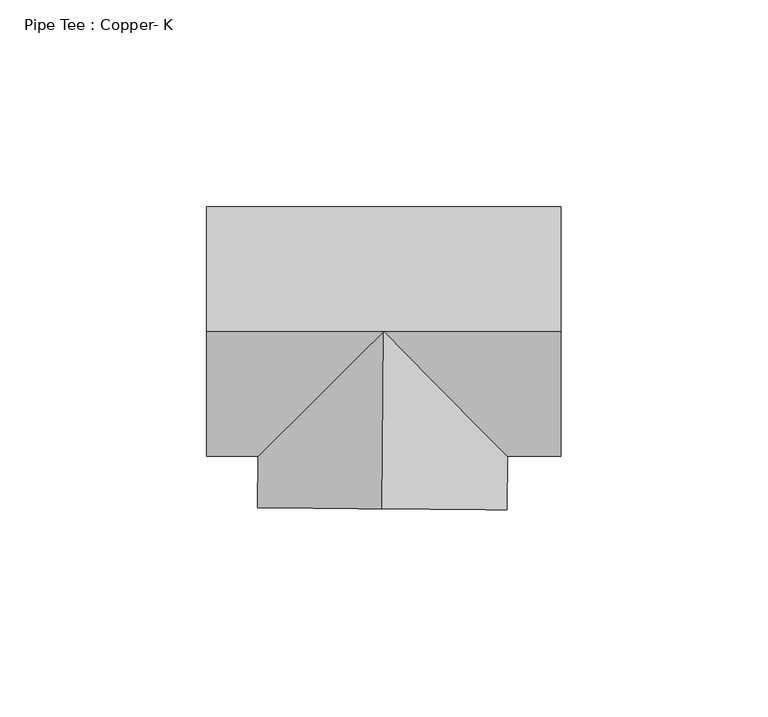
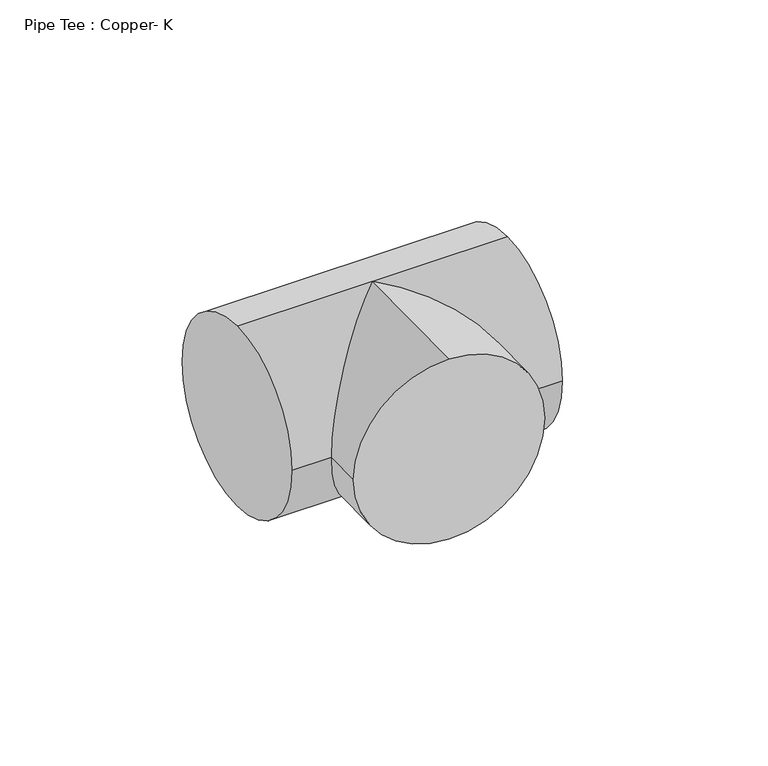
"""IFC4 building model written with IfcOpenShell, lengths in millimetres: pipe fitting geometry, Pipe Tee : Copper- K."""

import ifcopenshell
import ifcopenshell.guid

model = None  # the IFC model being written
_history = None  # IfcOwnerHistory: only IFC2X3 demands one
_inside = {}  # id of a spatial element -> (the spatial element, [elements in it])
_under = {}  # id of a project, library or spatial element -> (it, [spatial elements below it])
_declared = {}  # id of a project -> (the project, [libraries it declares])
_typed = {}  # id of a type object -> (the type object, [elements of that type])
_made_of = {}  # id of a material, layer set ... -> (it, [elements and type objects made of it])


def new_model(schema):
    """Start an empty IFC model of exactly this schema.

    Asked for "IFC4X3", IfcOpenShell would pick the latest addendum, in which some entities
    have other attributes; the version numbers below select the first issue.
    IFC2X3 requires an IfcOwnerHistory on every rooted entity: one is made here for all.
    """
    global model, _history
    if schema == "IFC4X3":
        model = ifcopenshell.file(schema_version=(4, 3, 0, 0))
    else:
        model = ifcopenshell.file(schema=schema)
    _inside.clear()
    _under.clear()
    _declared.clear()
    _typed.clear()
    _made_of.clear()
    _history = None
    if model.schema == "IFC2X3":
        org = make("IfcOrganization", Name="unknown")
        user = make(
            "IfcPersonAndOrganization",
            ThePerson=make("IfcPerson", FamilyName="unknown"),
            TheOrganization=org,
        )
        app = make(
            "IfcApplication",
            ApplicationDeveloper=org,
            Version="unknown",
            ApplicationFullName="unknown",
            ApplicationIdentifier="unknown",
        )
        _history = make(
            "IfcOwnerHistory",
            OwningUser=user,
            OwningApplication=app,
            ChangeAction="ADDED",
            CreationDate=0,
        )
    return model


def make(cls, **values):
    """One entity of the class cls with the attributes given. An attribute that is None is left unset."""
    return model.create_entity(
        cls, **{name: value for name, value in values.items() if value is not None}
    )


def rooted(cls, **values):
    """An entity with a GlobalId (a new one), such as an element, a storey or a relation."""
    return make(cls, GlobalId=ifcopenshell.guid.new(), OwnerHistory=_history, **values)


def si_unit(unit_type, name, prefix=None):
    """IfcSIUnit, for example si_unit("LENGTHUNIT", "METRE", prefix="MILLI")."""
    return make("IfcSIUnit", UnitType=unit_type, Prefix=prefix, Name=name)


def assignment(units):
    """IfcUnitAssignment: the units of a project."""
    return None if units is None else make("IfcUnitAssignment", Units=units)


def point(xyz):
    """IfcCartesianPoint."""
    return None if xyz is None else make("IfcCartesianPoint", Coordinates=xyz)


def direction(xyz):
    """IfcDirection."""
    return None if xyz is None else make("IfcDirection", DirectionRatios=xyz)


def frame(location, z_axis=None, x_axis=None):
    """IfcAxis2Placement3D, a coordinate frame: its origin and axes. An axis left out is left unset."""
    return make(
        "IfcAxis2Placement3D",
        Location=point(location),
        Axis=direction(z_axis),
        RefDirection=direction(x_axis),
    )


def origin():
    """The frame at (0, 0, 0) with its axes left unset."""
    return frame((0.0, 0.0, 0.0))


def place(relative_to, where):
    """IfcLocalPlacement: puts the frame where relative to a parent placement (None: the world)."""
    return make(
        "IfcLocalPlacement", PlacementRelTo=relative_to, RelativePlacement=where
    )


def context(
    kind, dimensions, precision=None, world=None, true_north=None, identifier=None
):
    """IfcGeometricRepresentationContext, for example the 3D "Model" context."""
    return make(
        "IfcGeometricRepresentationContext",
        ContextIdentifier=identifier,
        ContextType=kind,
        CoordinateSpaceDimension=dimensions,
        Precision=precision,
        WorldCoordinateSystem=world,
        TrueNorth=true_north,
    )


def project(units=None, contexts=None):
    """IfcProject with its units and contexts."""
    return rooted(
        "IfcProject",
        Name="project",
        RepresentationContexts=contexts,
        UnitsInContext=assignment(units),
    )


def spatial(cls, under=None, at=None, **own):
    """A site, building, storey or space (cls), placed at a placement, below another one or the project."""
    s = rooted(cls, ObjectPlacement=at, **own)
    if under is not None:
        _under.setdefault(under.id(), (under, []))[1].append(s)
    return s


def circle_curve(where, radius):
    """IfcCircle in the frame where."""
    return make("IfcCircle", Position=where, Radius=radius)


def ellipse_curve(where, semi_axis1, semi_axis2):
    """IfcEllipse in the frame where."""
    return make(
        "IfcEllipse", Position=where, SemiAxis1=semi_axis1, SemiAxis2=semi_axis2
    )


def shape(context_of_items, identifier, shape_type, items):
    """IfcShapeRepresentation: the items that make up one representation, for example the "Body"."""
    return make(
        "IfcShapeRepresentation",
        ContextOfItems=context_of_items,
        RepresentationIdentifier=identifier,
        RepresentationType=shape_type,
        Items=items,
    )


def source(mapping_origin, context_of_items, identifier, shape_type, items):
    """IfcRepresentationMap: a shape defined once, which mapped items show again and again."""
    return make(
        "IfcRepresentationMap",
        MappingOrigin=mapping_origin,
        MappedRepresentation=shape(context_of_items, identifier, shape_type, items),
    )


def transform(
    local_origin,
    x_axis=None,
    y_axis=None,
    z_axis=None,
    scale=None,
    scale2=None,
    scale3=None,
    uniform=True,
):
    """IfcCartesianTransformationOperator3D, or its non-uniform kind. x_axis, y_axis, z_axis: its Axis1, 2, 3."""
    if uniform:
        return make(
            "IfcCartesianTransformationOperator3D",
            Axis1=direction(x_axis),
            Axis2=direction(y_axis),
            LocalOrigin=point(local_origin),
            Scale=scale,
            Axis3=direction(z_axis),
        )
    return make(
        "IfcCartesianTransformationOperator3DnonUniform",
        Axis1=direction(x_axis),
        Axis2=direction(y_axis),
        LocalOrigin=point(local_origin),
        Scale=scale,
        Axis3=direction(z_axis),
        Scale2=scale2,
        Scale3=scale3,
    )


def mapped(mapping_source, mapping_target):
    """IfcMappedItem: shows the shape of a source again, moved by a transform."""
    return make(
        "IfcMappedItem", MappingSource=mapping_source, MappingTarget=mapping_target
    )


def made_of(thing, what):
    """Note that an element or type object is made of a material, layer set ...; save() writes the relation."""
    if what is not None:
        _made_of.setdefault(what.id(), (what, []))[1].append(thing)
    return thing


def element(
    cls,
    number,
    at=None,
    inside=None,
    cuts=None,
    type_object=None,
    material=None,
    context=None,
    identifier="Body",
    shape_type=None,
    held_by="IfcProductDefinitionShape",
    body=None,
    shapes=None,
    **own,
):
    """One element of the class cls, such as IfcWall. Its Tag is "e" and its number.

    at: its placement. inside: the storey or other place that contains it. cuts: it is an
    opening in that element (IfcRelVoidsElement). A single representation is given by context,
    identifier, shape_type and body (its items); several are given by shapes. held_by: the class
    of the entity that holds the representations. save() writes the other relations.
    """
    e = rooted(cls, Tag="e%d" % number, ObjectPlacement=at, **own)
    if body is not None:
        shapes = [shape(context, identifier, shape_type, body)]
    if shapes is not None:
        e.Representation = make(held_by, Representations=shapes)
    if inside is not None:
        _inside.setdefault(inside.id(), (inside, []))[1].append(e)
    if cuts is not None:
        rooted(
            "IfcRelVoidsElement", RelatingBuildingElement=cuts, RelatedOpeningElement=e
        )
    if type_object is not None:
        _typed.setdefault(type_object.id(), (type_object, []))[1].append(e)
    return made_of(e, material)


def aggregate(whole, parts):
    """IfcRelAggregates: a whole, such as a stair, and the parts it consists of."""
    return rooted("IfcRelAggregates", RelatingObject=whole, RelatedObjects=parts)


def save(model, path):
    """Write the relations noted so far, then the file.

    IfcRelAggregates (storeys below a building ...), IfcRelContainedInSpatialStructure (elements
    in a storey), IfcRelDefinesByType, IfcRelAssociatesMaterial and IfcRelDeclares: one each for
    every whole, place, type object, material and project.
    """
    for whole, parts in _under.values():
        aggregate(whole, parts)
    for where, things in _inside.values():
        rooted(
            "IfcRelContainedInSpatialStructure",
            RelatedElements=things,
            RelatingStructure=where,
        )
    for kind, things in _typed.values():
        rooted("IfcRelDefinesByType", RelatedObjects=things, RelatingType=kind)
    for what, things in _made_of.values():
        rooted("IfcRelAssociatesMaterial", RelatedObjects=things, RelatingMaterial=what)
    for by, libraries in _declared.values():
        rooted("IfcRelDeclares", RelatingContext=by, RelatedDefinitions=libraries)
    model.write(path)


def plane_surface(at):
    """IfcPlane: the flat surface through the origin of the frame at, square to its z axis."""
    return make("IfcPlane", Position=at)


def cylinder_surface(at, radius):
    """IfcCylindricalSurface: all points at the distance radius from the z axis of the frame at."""
    return make("IfcCylindricalSurface", Position=at, Radius=radius)


def advanced_brep(points, edges, surfaces, faces):
    """IfcAdvancedBrep: a solid bounded by faces that lie on surfaces and meet in shared edges.

    An edge is (start, end): straight between two places in points (the first is 0);
    or (start, end, curve); or (start, end, curve, False) where it runs against its curve.
    A face is (place in surfaces, loops), or (place, loops, False) where it looks against
    its surface's normal. A loop lists edges by number (the first is 1), with a minus sign
    where the edge is run from its end to its start. The first loop is the outer one.
    """
    corners = [point(p) for p in points]
    vertices = [make("IfcVertexPoint", VertexGeometry=c) for c in corners]
    made = []
    for start, end, *more in edges:
        made.append(
            make(
                "IfcEdgeCurve",
                EdgeStart=vertices[start],
                EdgeEnd=vertices[end],
                EdgeGeometry=more[0] if more else make("IfcPolyline", Points=[corners[start], corners[end]]),
                SameSense=more[1] if len(more) > 1 else True,
            )
        )
    hull = []
    for where, loops, *sense in faces:
        bounds = []
        for j, loop in enumerate(loops):
            ring = [make("IfcOrientedEdge", EdgeElement=made[abs(k) - 1], Orientation=k > 0) for k in loop]
            bounds.append(
                make(
                    "IfcFaceOuterBound" if j == 0 else "IfcFaceBound",
                    Bound=make("IfcEdgeLoop", EdgeList=ring),
                    Orientation=True,
                )
            )
        hull.append(make("IfcAdvancedFace", Bounds=bounds, FaceSurface=surfaces[where], SameSense=sense[0] if sense else True))
    return make("IfcAdvancedBrep", Outer=make("IfcClosedShell", CfsFaces=hull))


def pipe_tee_copper_k_96819ad6(model_context):
    return source(origin(), model_context, "Body", "AdvancedBrep", [
        advanced_brep(
        [(-42.8625, 0.0, 30.1625), (-42.8625, 30.1625, 0.0), (-42.8625, 0.0, -30.1625), (-42.8625, -30.1625, 0.0), (42.8625, 0.0, 30.1625), (42.8625, -30.1625, 0.0), (42.8625, 0.0, -30.1625), (42.8625, 30.1625, 0.0), (0.0, 0.0, 30.1625), (0.0, 0.0, -30.1625), (-30.4242687, -30.1625, 0.0), (29.9029836, -30.1625, 0.0), (-0.370373, -42.8608998, 30.1625), (-30.5317469, -42.6002669, 0.0), (-0.370373, -42.8608998, -30.1625), (29.7910009, -43.1215326, 0.0)],
        [
            (0, 1, circle_curve(frame((-42.8625, 0.0, 0.0), z_axis=(-1.0, 0.0, 0.0), x_axis=(0.0, 1.0, 0.0)), 30.1625)),
            (1, 2, circle_curve(frame((-42.8625, 0.0, 0.0), z_axis=(-1.0, 0.0, 0.0), x_axis=(0.0, 1.0, 0.0)), 30.1625)),
            (2, 3, circle_curve(frame((-42.8625, 0.0, 0.0), z_axis=(-1.0, 0.0, 0.0), x_axis=(0.0, 1.0, 0.0)), 30.1625)),
            (3, 0, circle_curve(frame((-42.8625, 0.0, 0.0), z_axis=(-1.0, 0.0, 0.0), x_axis=(0.0, 1.0, 0.0)), 30.1625)),
            (4, 5, circle_curve(frame((42.8625, 0.0, 0.0), z_axis=(1.0, 0.0, 0.0), x_axis=(0.0, 1.0, 0.0)), 30.1625)),
            (5, 6, circle_curve(frame((42.8625, 0.0, 0.0), z_axis=(1.0, 0.0, 0.0), x_axis=(0.0, 1.0, 0.0)), 30.1625)),
            (6, 7, circle_curve(frame((42.8625, 0.0, 0.0), z_axis=(1.0, 0.0, 0.0), x_axis=(0.0, 1.0, 0.0)), 30.1625)),
            (7, 4, circle_curve(frame((42.8625, 0.0, 0.0), z_axis=(1.0, 0.0, 0.0), x_axis=(0.0, 1.0, 0.0)), 30.1625)),
            (0, 8),
            (8, 4),
            (7, 1),
            (6, 9),
            (9, 2),
            (9, 10, ellipse_curve(frame((0.0, 0.0, 0.0), z_axis=(-0.7040451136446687, 0.7101552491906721, 0.0), x_axis=(-0.7101552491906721, -0.7040451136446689, 0.0)), 42.8417148, 30.1625)),
            (10, 3),
            (5, 11),
            (11, 9, ellipse_curve(frame((0.0, 0.0, 0.0), z_axis=(0.7101552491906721, 0.7040451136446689, 0.0), x_axis=(-0.7040451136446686, 0.7101552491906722, 0.0)), 42.4731072, 30.1625)),
            (10, 8, ellipse_curve(frame((0.0, 0.0, 0.0), z_axis=(-0.7040451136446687, 0.7101552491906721, 0.0), x_axis=(-0.7101552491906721, -0.7040451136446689, 0.0)), 42.8417148, 30.1625)),
            (8, 11, ellipse_curve(frame((0.0, 0.0, 0.0), z_axis=(0.7101552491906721, 0.7040451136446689, 0.0), x_axis=(-0.7040451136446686, 0.7101552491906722, 0.0)), 42.4731072, 30.1625)),
            (12, 13, circle_curve(frame((-0.370373, -42.8608998, 0.0), z_axis=(-0.008640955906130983, -0.9999626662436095, 0.0), x_axis=(0.9999626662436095, -0.008640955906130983, 0.0)), 30.1625)),
            (13, 14, circle_curve(frame((-0.370373, -42.8608998, 0.0), z_axis=(-0.008640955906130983, -0.9999626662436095, 0.0), x_axis=(0.9999626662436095, -0.008640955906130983, 0.0)), 30.1625)),
            (14, 15, circle_curve(frame((-0.370373, -42.8608998, 0.0), z_axis=(-0.008640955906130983, -0.9999626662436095, 0.0), x_axis=(0.9999626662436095, -0.008640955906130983, 0.0)), 30.1625)),
            (15, 12, circle_curve(frame((-0.370373, -42.8608998, 0.0), z_axis=(-0.008640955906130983, -0.9999626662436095, 0.0), x_axis=(0.9999626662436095, -0.008640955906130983, 0.0)), 30.1625)),
            (15, 11),
            (8, 12),
            (14, 9),
            (13, 10),
        ],
        [
            plane_surface(frame((-42.8625, 0.0, 0.0), z_axis=(-1.0, 0.0, 0.0), x_axis=(0.0, 0.0, 1.0))),
            plane_surface(frame((42.8625, 0.0, 0.0), z_axis=(1.0, 0.0, 0.0), x_axis=(0.0, 0.0, 1.0))),
            cylinder_surface(frame((-42.8625, 0.0, 0.0), z_axis=(-1.0, 0.0, 0.0), x_axis=(0.0, 1.0, 0.0)), 30.1625),
            plane_surface(frame((-0.370373, -42.8608998, 0.0), z_axis=(-0.008640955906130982, -0.9999626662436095, 0.0), x_axis=(0.0, 0.0, 1.0))),
            cylinder_surface(frame((0.0, 0.0, 0.0), z_axis=(0.008640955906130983, 0.9999626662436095, 0.0), x_axis=(0.9999626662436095, -0.008640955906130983, 0.0)), 30.1625),
        ],
        [
            (0, [[1, 2, 3, 4]]),
            (1, [[5, 6, 7, 8]]),
            (2, [[-1, 9, 10, -8, 11]]),
            (2, [[-2, -11, -7, 12, 13]]),
            (2, [[-3, -13, 14, 15]]),
            (2, [[-6, 16, 17, -12]]),
            (2, [[-4, -15, 18, -9]]),
            (2, [[-5, -10, 19, -16]]),
            (3, [[20, 21, 22, 23]]),
            (4, [[-23, 24, -19, 25]]),
            (4, [[-22, 26, -17, -24]]),
            (4, [[-21, 27, -14, -26]]),
            (4, [[-20, -25, -18, -27]]),
        ],
    ),
        advanced_brep(
        [(-42.8625, 0.0, 30.1625), (-42.8625, 30.1625, 0.0), (-42.8625, 0.0, -30.1625), (-42.8625, -30.1625, 0.0), (42.8625, 0.0, 30.1625), (42.8625, -30.1625, 0.0), (42.8625, 0.0, -30.1625), (42.8625, 30.1625, 0.0), (0.0, 0.0, 30.1625), (0.0, 0.0, -30.1625), (-30.4242687, -30.1625, 0.0), (29.9029836, -30.1625, 0.0), (-0.370373, -42.8608998, 30.1625), (-30.5317469, -42.6002669, 0.0), (-0.370373, -42.8608998, -30.1625), (29.7910009, -43.1215326, 0.0)],
        [
            (0, 1, circle_curve(frame((-42.8625, 0.0, 0.0), z_axis=(-1.0, 0.0, 0.0), x_axis=(0.0, 1.0, 0.0)), 30.1625)),
            (1, 2, circle_curve(frame((-42.8625, 0.0, 0.0), z_axis=(-1.0, 0.0, 0.0), x_axis=(0.0, 1.0, 0.0)), 30.1625)),
            (2, 3, circle_curve(frame((-42.8625, 0.0, 0.0), z_axis=(-1.0, 0.0, 0.0), x_axis=(0.0, 1.0, 0.0)), 30.1625)),
            (3, 0, circle_curve(frame((-42.8625, 0.0, 0.0), z_axis=(-1.0, 0.0, 0.0), x_axis=(0.0, 1.0, 0.0)), 30.1625)),
            (4, 5, circle_curve(frame((42.8625, 0.0, 0.0), z_axis=(1.0, 0.0, 0.0), x_axis=(0.0, 1.0, 0.0)), 30.1625)),
            (5, 6, circle_curve(frame((42.8625, 0.0, 0.0), z_axis=(1.0, 0.0, 0.0), x_axis=(0.0, 1.0, 0.0)), 30.1625)),
            (6, 7, circle_curve(frame((42.8625, 0.0, 0.0), z_axis=(1.0, 0.0, 0.0), x_axis=(0.0, 1.0, 0.0)), 30.1625)),
            (7, 4, circle_curve(frame((42.8625, 0.0, 0.0), z_axis=(1.0, 0.0, 0.0), x_axis=(0.0, 1.0, 0.0)), 30.1625)),
            (0, 8),
            (8, 4),
            (7, 1),
            (6, 9),
            (9, 2),
            (9, 10, ellipse_curve(frame((0.0, 0.0, 0.0), z_axis=(-0.7040451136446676, 0.7101552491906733, 0.0), x_axis=(-0.7101552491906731, -0.7040451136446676, 0.0)), 42.8417148, 30.1625)),
            (10, 3),
            (5, 11),
            (11, 9, ellipse_curve(frame((0.0, 0.0, 0.0), z_axis=(0.7101552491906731, 0.7040451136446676, 0.0), x_axis=(-0.7040451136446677, 0.7101552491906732, 0.0)), 42.4731072, 30.1625)),
            (10, 8, ellipse_curve(frame((0.0, 0.0, 0.0), z_axis=(-0.7040451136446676, 0.7101552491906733, 0.0), x_axis=(-0.7101552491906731, -0.7040451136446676, 0.0)), 42.8417148, 30.1625)),
            (8, 11, ellipse_curve(frame((0.0, 0.0, 0.0), z_axis=(0.7101552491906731, 0.7040451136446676, 0.0), x_axis=(-0.7040451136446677, 0.7101552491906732, 0.0)), 42.4731072, 30.1625)),
            (12, 13, circle_curve(frame((-0.370373, -42.8608998, 0.0), z_axis=(-0.008640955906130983, -0.9999626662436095, 0.0), x_axis=(0.9999626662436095, -0.008640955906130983, 0.0)), 30.1625)),
            (13, 14, circle_curve(frame((-0.370373, -42.8608998, 0.0), z_axis=(-0.008640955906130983, -0.9999626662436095, 0.0), x_axis=(0.9999626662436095, -0.008640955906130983, 0.0)), 30.1625)),
            (14, 15, circle_curve(frame((-0.370373, -42.8608998, 0.0), z_axis=(-0.008640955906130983, -0.9999626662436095, 0.0), x_axis=(0.9999626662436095, -0.008640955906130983, 0.0)), 30.1625)),
            (15, 12, circle_curve(frame((-0.370373, -42.8608998, 0.0), z_axis=(-0.008640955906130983, -0.9999626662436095, 0.0), x_axis=(0.9999626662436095, -0.008640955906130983, 0.0)), 30.1625)),
            (15, 11),
            (8, 12),
            (14, 9),
            (13, 10),
        ],
        [
            plane_surface(frame((-42.8625, 0.0, 0.0), z_axis=(-1.0, 0.0, 0.0), x_axis=(0.0, 0.0, 1.0))),
            plane_surface(frame((42.8625, 0.0, 0.0), z_axis=(1.0, 0.0, 0.0), x_axis=(0.0, 0.0, 1.0))),
            cylinder_surface(frame((-42.8625, 0.0, 0.0), z_axis=(-1.0, 0.0, 0.0), x_axis=(0.0, 1.0, 0.0)), 30.1625),
            plane_surface(frame((-0.370373, -42.8608998, 0.0), z_axis=(-0.008640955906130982, -0.9999626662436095, 0.0), x_axis=(0.0, 0.0, 1.0))),
            cylinder_surface(frame((0.0, 0.0, 0.0), z_axis=(0.008640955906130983, 0.9999626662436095, 0.0), x_axis=(0.9999626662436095, -0.008640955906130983, 0.0)), 30.1625),
        ],
        [
            (0, [[1, 2, 3, 4]]),
            (1, [[5, 6, 7, 8]]),
            (2, [[-1, 9, 10, -8, 11]]),
            (2, [[-2, -11, -7, 12, 13]]),
            (2, [[-3, -13, 14, 15]]),
            (2, [[-6, 16, 17, -12]]),
            (2, [[-4, -15, 18, -9]]),
            (2, [[-5, -10, 19, -16]]),
            (3, [[20, 21, 22, 23]]),
            (4, [[-23, 24, -19, 25]]),
            (4, [[-22, 26, -17, -24]]),
            (4, [[-21, 27, -14, -26]]),
            (4, [[-20, -25, -18, -27]]),
        ],
    ),
    ])


if __name__ == "__main__":
    model = new_model("IFC4")
    model_context = context("Model", 3, world=origin())
    ifc_project = project(units=[si_unit("LENGTHUNIT", "METRE", prefix="MILLI")], contexts=[model_context])
    site = spatial("IfcSite", under=ifc_project)
    building = spatial("IfcBuilding", under=site)
    placement = place(None, origin())
    pipe_tee_copper_k_shape = pipe_tee_copper_k_96819ad6(model_context)
    element("IfcPipeFitting", 1, ObjectType="Pipe Tee : Copper- K", at=placement, inside=building, context=model_context, shape_type="MappedRepresentation", body=[
        mapped(pipe_tee_copper_k_shape, transform((0.0, 0.0, 0.0), x_axis=(1.0, 0.0, 0.0), y_axis=(0.0, 1.0, 0.0), z_axis=(0.0, 0.0, 1.0))),
    ])
    save(model, "model.ifc")
